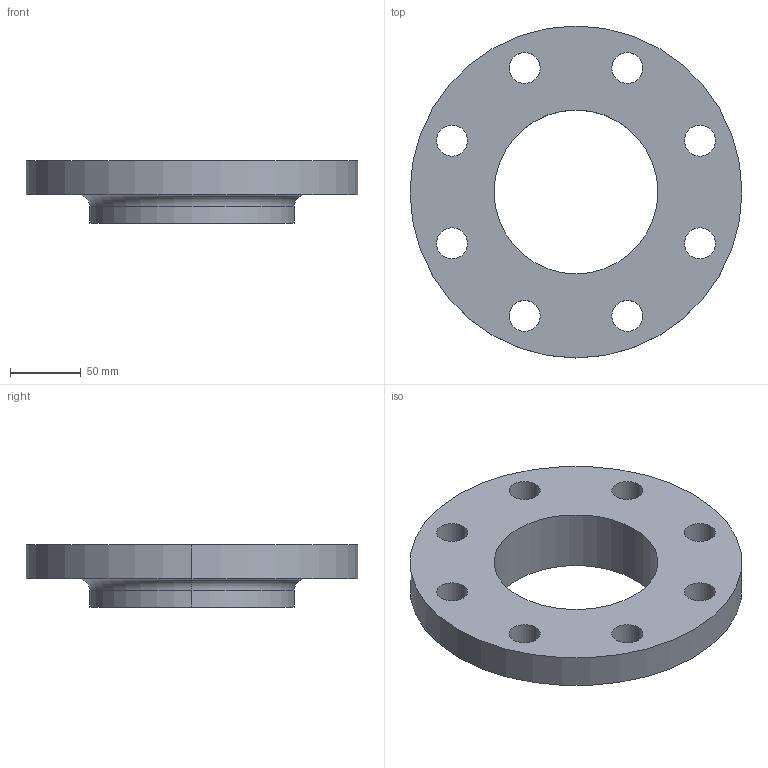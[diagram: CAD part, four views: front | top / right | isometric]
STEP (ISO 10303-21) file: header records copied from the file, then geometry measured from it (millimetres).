
FILE_DESCRIPTION (( 'STEP AP214' ), '1' );
FILE_NAME ('PN40 DN100 Type 12 - Type A Face.STEP', '2019-01-02T00:22:07', ( '' ), ( '' ), 'SwSTEP 2.0', 'SolidWorks 2019', '' );
FILE_SCHEMA (( 'AUTOMOTIVE_DESIGN' ));
Length unit declared in the file: millimetre
Products named in the file (1): PN40 DN100 Type 12 - Type A Face
Bounding box: 235 x 235 x 44 mm (x, y, z)
Volume: 839645.9 mm3; surface area: 114126.8 mm2
Topology: 1 solids, 1 shells, 27 faces, 70 edges, 46 vertices
Faces by surface type: cylinder 22, plane 3, torus 2
Entity records: 926 total; most frequent: DIRECTION 174, CARTESIAN_POINT 144, ORIENTED_EDGE 140, AXIS2_PLACEMENT_3D 76, EDGE_CURVE 70, CIRCLE 48, VERTEX_POINT 46, EDGE_LOOP 46
